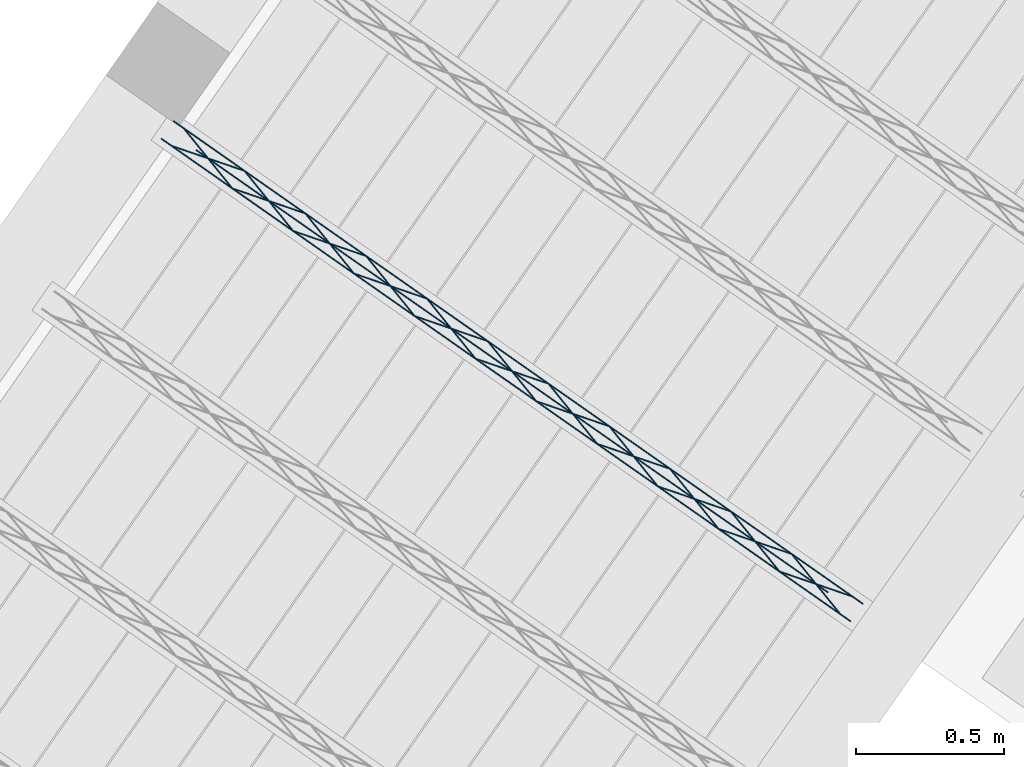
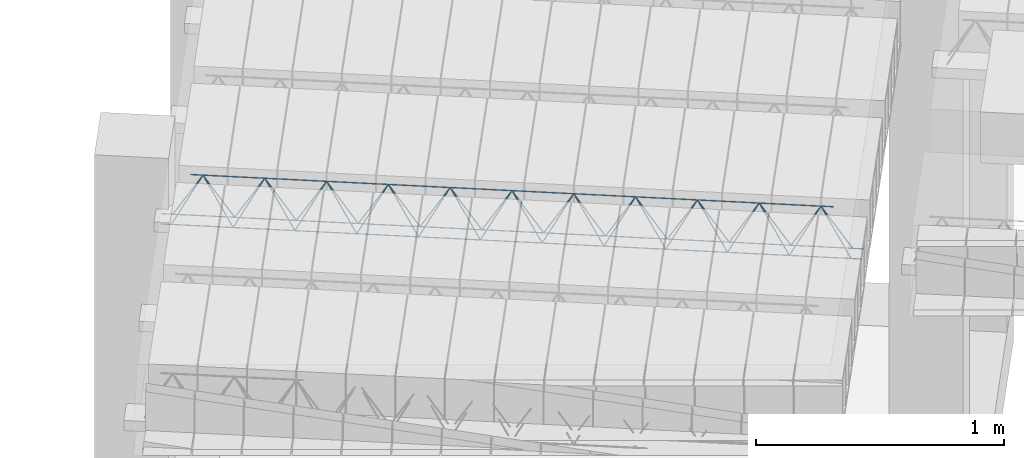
# One storey, part 32 of 80: 1 member.
"""IFC2X3 building model written with IfcOpenShell, lengths in metres."""

from ifc_helpers import new_model, entity, si_unit, converted_unit, derived_unit, direction, frame, origin, origin_2d_with_axis, place, context, subcontext, project, spatial, circle, extrude, type_object, element, save


model = new_model("IFC2X3")

# Units and contexts
model_context = context("Model", 3, precision=1e-05, world=origin(), true_north=direction((6.123031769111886e-17, 1.0)))
body_context = subcontext(model_context, "Body", "Model", "MODEL_VIEW")
ifc_project = project(units=[si_unit("LENGTHUNIT", "METRE"), si_unit("AREAUNIT", "SQUARE_METRE"), si_unit("VOLUMEUNIT", "CUBIC_METRE"), converted_unit("PLANEANGLEUNIT", "DEGREE", entity("IfcPlaneAngleMeasure", 0.017453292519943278), si_unit("PLANEANGLEUNIT", "RADIAN"), dimensions=[0, 0, 0, 0, 0, 0, 0]), si_unit("MASSUNIT", "GRAM", prefix="KILO"), derived_unit("MASSDENSITYUNIT", [(si_unit("MASSUNIT", "GRAM", prefix="KILO"), 1), (si_unit("LENGTHUNIT", "METRE"), -3)]), derived_unit("IONCONCENTRATIONUNIT", [(si_unit("MASSUNIT", "GRAM", prefix="KILO"), 1), (si_unit("LENGTHUNIT", "METRE"), -3)]), derived_unit("MOMENTOFINERTIAUNIT", [(si_unit("LENGTHUNIT", "METRE"), 4)]), si_unit("TIMEUNIT", "SECOND"), si_unit("FREQUENCYUNIT", "HERTZ"), si_unit("THERMODYNAMICTEMPERATUREUNIT", "DEGREE_CELSIUS"), derived_unit("THERMALTRANSMITTANCEUNIT", [(si_unit("MASSUNIT", "GRAM", prefix="KILO"), 1), (si_unit("THERMODYNAMICTEMPERATUREUNIT", "KELVIN"), -1), (si_unit("TIMEUNIT", "SECOND"), -3)]), derived_unit("THERMALCONDUCTANCEUNIT", [(si_unit("MASSUNIT", "GRAM", prefix="KILO"), 1), (si_unit("THERMODYNAMICTEMPERATUREUNIT", "KELVIN"), -1), (si_unit("TIMEUNIT", "SECOND"), -3), (si_unit("LENGTHUNIT", "METRE"), 1)]), derived_unit("VOLUMETRICFLOWRATEUNIT", [(si_unit("LENGTHUNIT", "METRE", prefix="DECI"), 3), (si_unit("TIMEUNIT", "SECOND"), -1)]), derived_unit("MASSFLOWRATEUNIT", [(si_unit("MASSUNIT", "GRAM", prefix="KILO"), 1), (si_unit("TIMEUNIT", "SECOND"), -1)]), derived_unit("ROTATIONALFREQUENCYUNIT", [(si_unit("TIMEUNIT", "SECOND"), -1)]), si_unit("ELECTRICCURRENTUNIT", "AMPERE"), si_unit("ELECTRICVOLTAGEUNIT", "VOLT"), si_unit("POWERUNIT", "WATT"), si_unit("FORCEUNIT", "NEWTON", prefix="KILO"), si_unit("ILLUMINANCEUNIT", "LUX"), si_unit("LUMINOUSFLUXUNIT", "LUMEN"), si_unit("LUMINOUSINTENSITYUNIT", "CANDELA"), si_unit("ENERGYUNIT", "JOULE"), derived_unit("USERDEFINED", [(si_unit("MASSUNIT", "GRAM", prefix="KILO"), -1), (si_unit("LENGTHUNIT", "METRE"), -2), (si_unit("TIMEUNIT", "SECOND"), 3), (si_unit("LUMINOUSFLUXUNIT", "LUMEN"), 1)]), derived_unit("USERDEFINED", [(si_unit("MASSUNIT", "GRAM", prefix="KILO"), 1), (si_unit("TIMEUNIT", "SECOND"), -3), (si_unit("LENGTHUNIT", "METRE"), 3), (si_unit("ELECTRICCURRENTUNIT", "AMPERE"), -2)]), derived_unit("SOUNDPOWERUNIT", [(si_unit("MASSUNIT", "GRAM", prefix="KILO"), 1), (si_unit("TIMEUNIT", "SECOND"), -3), (si_unit("LENGTHUNIT", "METRE"), 2)]), derived_unit("SOUNDPRESSUREUNIT", [(si_unit("MASSUNIT", "GRAM", prefix="KILO"), 1), (si_unit("LENGTHUNIT", "METRE"), -1), (si_unit("TIMEUNIT", "SECOND"), -2)]), derived_unit("LINEARVELOCITYUNIT", [(si_unit("LENGTHUNIT", "METRE"), 1), (si_unit("TIMEUNIT", "SECOND"), -1)]), si_unit("PRESSUREUNIT", "PASCAL"), derived_unit("USERDEFINED", [(si_unit("MASSUNIT", "GRAM", prefix="KILO"), 1), (si_unit("LENGTHUNIT", "METRE"), -2), (si_unit("TIMEUNIT", "SECOND"), -2)]), derived_unit("LINEARFORCEUNIT", [(si_unit("MASSUNIT", "GRAM", prefix="KILO"), 1), (si_unit("TIMEUNIT", "SECOND"), -2)]), derived_unit("PLANARFORCEUNIT", [(si_unit("MASSUNIT", "GRAM", prefix="KILO"), 1), (si_unit("LENGTHUNIT", "METRE"), -1), (si_unit("TIMEUNIT", "SECOND"), -2)]), derived_unit("SPECIFICHEATCAPACITYUNIT", [(si_unit("THERMODYNAMICTEMPERATUREUNIT", "KELVIN"), -1), (si_unit("LENGTHUNIT", "METRE"), 2), (si_unit("TIMEUNIT", "SECOND"), -2)]), derived_unit("HEATFLUXDENSITYUNIT", [(si_unit("MASSUNIT", "GRAM", prefix="KILO"), 1), (si_unit("TIMEUNIT", "SECOND"), -3)]), derived_unit("HEATINGVALUEUNIT", [(si_unit("LENGTHUNIT", "METRE"), 2), (si_unit("TIMEUNIT", "SECOND"), -2)]), derived_unit("VAPORPERMEABILITYUNIT", [(si_unit("LENGTHUNIT", "METRE"), -1), (si_unit("TIMEUNIT", "SECOND"), 1)]), derived_unit("DYNAMICVISCOSITYUNIT", [(si_unit("MASSUNIT", "GRAM", prefix="KILO"), 1), (si_unit("TIMEUNIT", "SECOND"), -1), (si_unit("LENGTHUNIT", "METRE"), -1)]), derived_unit("THERMALEXPANSIONCOEFFICIENTUNIT", [(si_unit("THERMODYNAMICTEMPERATUREUNIT", "KELVIN"), -1)]), derived_unit("MODULUSOFELASTICITYUNIT", [(si_unit("MASSUNIT", "GRAM", prefix="KILO"), 1), (si_unit("LENGTHUNIT", "METRE"), -1), (si_unit("TIMEUNIT", "SECOND"), -2)]), derived_unit("ISOTHERMALMOISTURECAPACITYUNIT", [(si_unit("MASSUNIT", "GRAM", prefix="KILO"), -1), (si_unit("LENGTHUNIT", "METRE"), 3)]), derived_unit("MOISTUREDIFFUSIVITYUNIT", [(si_unit("TIMEUNIT", "SECOND"), -1), (si_unit("LENGTHUNIT", "METRE"), 2)]), derived_unit("MASSPERLENGTHUNIT", [(si_unit("MASSUNIT", "GRAM", prefix="KILO"), 1), (si_unit("LENGTHUNIT", "METRE"), -1)]), derived_unit("THERMALRESISTANCEUNIT", [(si_unit("MASSUNIT", "GRAM", prefix="KILO"), -1), (si_unit("TIMEUNIT", "SECOND"), 3), (si_unit("THERMODYNAMICTEMPERATUREUNIT", "KELVIN"), 1)]), derived_unit("ACCELERATIONUNIT", [(si_unit("LENGTHUNIT", "METRE"), 1), (si_unit("TIMEUNIT", "SECOND"), -2)]), derived_unit("ANGULARVELOCITYUNIT", [(si_unit("TIMEUNIT", "SECOND"), -1), (si_unit("PLANEANGLEUNIT", "RADIAN"), 1)]), derived_unit("LINEARSTIFFNESSUNIT", [(si_unit("MASSUNIT", "GRAM", prefix="KILO"), 1), (si_unit("TIMEUNIT", "SECOND"), -2)]), derived_unit("WARPINGCONSTANTUNIT", [(si_unit("LENGTHUNIT", "METRE"), 6)]), derived_unit("LINEARMOMENTUNIT", [(si_unit("MASSUNIT", "GRAM", prefix="KILO"), 1), (si_unit("LENGTHUNIT", "METRE"), 1), (si_unit("TIMEUNIT", "SECOND"), -2)]), derived_unit("TORQUEUNIT", [(si_unit("MASSUNIT", "GRAM", prefix="KILO"), 1), (si_unit("LENGTHUNIT", "METRE"), 2), (si_unit("TIMEUNIT", "SECOND"), -2)])], contexts=[model_context])

# Site, building, storey
site_placement = place(None, origin())
site = spatial("IfcSite", under=ifc_project, at=site_placement, Name="Default", CompositionType="ELEMENT")
building_placement = place(site_placement, origin())
building = spatial("IfcBuilding", under=site, at=building_placement, CompositionType="ELEMENT")
storey_placement = place(building_placement, frame((0.0, 0.0, 95.94)))
storey = spatial("IfcBuildingStorey", under=building, at=storey_placement, Name="PB", CompositionType="ELEMENT", Elevation=95.94)

# Member
member_type = type_object("IfcMemberType", Name="Celosía (Vigueta 10 - Paño 2)", PredefinedType="NOTDEFINED")
member_placement = place(storey_placement, origin())
element("IfcMember", 1, at=member_placement, inside=storey, type_object=member_type, Name="Celosía (Vigueta 10 - Paño 2)", context=body_context, shape_type="SweptSolid", body=[
    extrude(circle(Radius=0.0025, at=origin_2d_with_axis()), frame((2.4325394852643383, 7.836194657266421, 2.8449999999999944), z_axis=(0.8191520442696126, -0.5735764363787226, 0.0), x_axis=(-0.5735764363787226, -0.8191520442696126, 0.0)), (0.0, 0.0, 1.0), 2.836461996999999),
    extrude(circle(Radius=0.0025, at=origin_2d_with_axis()), frame((2.5500374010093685, 7.797869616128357, 3.069999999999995), z_axis=(0.8191520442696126, -0.5735764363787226, 0.0), x_axis=(-0.5735764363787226, -0.8191520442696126, 0.0)), (0.0, 0.0, 1.0), 2.6),
    extrude(circle(Radius=0.0025, at=origin_2d_with_axis()), frame((4.720620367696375, 6.2340631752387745, 2.8449999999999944), z_axis=(-0.3145304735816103, 0.389334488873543, 0.8657304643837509), x_axis=(-0.7778747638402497, -0.6284193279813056, 0.0)), (0.0, 0.0, 1.0), 0.2598961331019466),
    extrude(circle(Radius=0.0025, at=origin_2d_with_axis()), frame((4.515832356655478, 6.377457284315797, 2.8449999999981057), z_axis=(0.47343050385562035, -0.1624017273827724, 0.8657304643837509), x_axis=(-0.3244721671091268, -0.9458952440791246, 0.0)), (0.0, 0.0, 1.0), 0.25989613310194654),
    extrude(circle(Radius=0.0025, at=origin_2d_with_axis()), frame((4.515832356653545, 6.3774572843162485, 2.8449999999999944), z_axis=(-0.3145304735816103, 0.389334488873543, 0.8657304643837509), x_axis=(-0.7778747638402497, -0.6284193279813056, 0.0)), (0.0, 0.0, 1.0), 0.2598961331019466),
    extrude(circle(Radius=0.0025, at=origin_2d_with_axis()), frame((4.311044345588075, 6.520851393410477, 2.8449999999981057), z_axis=(0.47343050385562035, -0.1624017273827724, 0.8657304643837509), x_axis=(-0.3244721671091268, -0.9458952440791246, 0.0)), (0.0, 0.0, 1.0), 0.25989613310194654),
    extrude(circle(Radius=0.0025, at=origin_2d_with_axis()), frame((4.311044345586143, 6.520851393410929, 2.8449999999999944), z_axis=(-0.3145304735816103, 0.389334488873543, 0.8657304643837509), x_axis=(-0.7778747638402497, -0.6284193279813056, 0.0)), (0.0, 0.0, 1.0), 0.2598961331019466),
    extrude(circle(Radius=0.0025, at=origin_2d_with_axis()), frame((4.106256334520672, 6.664245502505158, 2.8449999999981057), z_axis=(0.47343050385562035, -0.1624017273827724, 0.8657304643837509), x_axis=(-0.3244721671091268, -0.9458952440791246, 0.0)), (0.0, 0.0, 1.0), 0.25989613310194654),
    extrude(circle(Radius=0.0025, at=origin_2d_with_axis()), frame((4.106256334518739, 6.664245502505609, 2.8449999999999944), z_axis=(-0.3145304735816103, 0.389334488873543, 0.8657304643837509), x_axis=(-0.7778747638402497, -0.6284193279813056, 0.0)), (0.0, 0.0, 1.0), 0.2598961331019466),
    extrude(circle(Radius=0.0025, at=origin_2d_with_axis()), frame((3.901468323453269, 6.807639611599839, 2.8449999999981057), z_axis=(0.47343050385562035, -0.1624017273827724, 0.8657304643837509), x_axis=(-0.3244721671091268, -0.9458952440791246, 0.0)), (0.0, 0.0, 1.0), 0.25989613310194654),
    extrude(circle(Radius=0.0025, at=origin_2d_with_axis()), frame((3.9014683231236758, 6.807639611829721, 2.8449999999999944), z_axis=(-0.3145304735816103, 0.389334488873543, 0.8657304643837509), x_axis=(-0.7778747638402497, -0.6284193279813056, 0.0)), (0.0, 0.0, 1.0), 0.2598961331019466),
    extrude(circle(Radius=0.0025, at=origin_2d_with_axis()), frame((3.6966803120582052, 6.95103372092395, 2.8449999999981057), z_axis=(0.47343050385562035, -0.1624017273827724, 0.8657304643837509), x_axis=(-0.3244721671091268, -0.9458952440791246, 0.0)), (0.0, 0.0, 1.0), 0.25989613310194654),
    extrude(circle(Radius=0.0025, at=origin_2d_with_axis()), frame((3.696680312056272, 6.951033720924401, 2.8449999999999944), z_axis=(-0.3145304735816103, 0.389334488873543, 0.8657304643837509), x_axis=(-0.7778747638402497, -0.6284193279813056, 0.0)), (0.0, 0.0, 1.0), 0.2598961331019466),
    extrude(circle(Radius=0.0025, at=origin_2d_with_axis()), frame((3.4918923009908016, 7.094427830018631, 2.8449999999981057), z_axis=(0.47343050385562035, -0.1624017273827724, 0.8657304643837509), x_axis=(-0.3244721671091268, -0.9458952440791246, 0.0)), (0.0, 0.0, 1.0), 0.25989613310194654),
    extrude(circle(Radius=0.0025, at=origin_2d_with_axis()), frame((3.4918923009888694, 7.0944278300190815, 2.8449999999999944), z_axis=(-0.3145304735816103, 0.389334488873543, 0.8657304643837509), x_axis=(-0.7778747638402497, -0.6284193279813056, 0.0)), (0.0, 0.0, 1.0), 0.2598961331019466),
    extrude(circle(Radius=0.0025, at=origin_2d_with_axis()), frame((3.287104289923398, 7.237821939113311, 2.8449999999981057), z_axis=(0.47343050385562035, -0.1624017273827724, 0.8657304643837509), x_axis=(-0.3244721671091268, -0.9458952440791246, 0.0)), (0.0, 0.0, 1.0), 0.25989613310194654),
    extrude(circle(Radius=0.0025, at=origin_2d_with_axis()), frame((3.287104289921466, 7.237821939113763, 2.8449999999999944), z_axis=(-0.3145304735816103, 0.389334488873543, 0.8657304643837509), x_axis=(-0.7778747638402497, -0.6284193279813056, 0.0)), (0.0, 0.0, 1.0), 0.2598961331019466),
    extrude(circle(Radius=0.0025, at=origin_2d_with_axis()), frame((3.0823162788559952, 7.381216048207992, 2.8449999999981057), z_axis=(0.47343050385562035, -0.1624017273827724, 0.8657304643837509), x_axis=(-0.3244721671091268, -0.9458952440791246, 0.0)), (0.0, 0.0, 1.0), 0.25989613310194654),
    extrude(circle(Radius=0.0025, at=origin_2d_with_axis()), frame((3.082316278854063, 7.381216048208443, 2.8449999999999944), z_axis=(-0.3145304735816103, 0.389334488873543, 0.8657304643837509), x_axis=(-0.7778747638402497, -0.6284193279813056, 0.0)), (0.0, 0.0, 1.0), 0.2598961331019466),
    extrude(circle(Radius=0.0025, at=origin_2d_with_axis()), frame((2.8775282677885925, 7.524610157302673, 2.8449999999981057), z_axis=(0.47343050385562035, -0.1624017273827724, 0.8657304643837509), x_axis=(-0.3244721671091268, -0.9458952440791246, 0.0)), (0.0, 0.0, 1.0), 0.25989613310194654),
    extrude(circle(Radius=0.0025, at=origin_2d_with_axis()), frame((2.8775282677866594, 7.524610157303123, 2.8449999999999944), z_axis=(-0.3145304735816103, 0.389334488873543, 0.8657304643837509), x_axis=(-0.7778747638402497, -0.6284193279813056, 0.0)), (0.0, 0.0, 1.0), 0.2598961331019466),
    extrude(circle(Radius=0.0025, at=origin_2d_with_axis()), frame((2.6727402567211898, 7.668004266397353, 2.8449999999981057), z_axis=(0.47343050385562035, -0.1624017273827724, 0.8657304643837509), x_axis=(-0.3244721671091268, -0.9458952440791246, 0.0)), (0.0, 0.0, 1.0), 0.25989613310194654),
    extrude(circle(Radius=0.0025, at=origin_2d_with_axis()), frame((2.6727402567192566, 7.668004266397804, 2.8449999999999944), z_axis=(-0.3145304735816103, 0.389334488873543, 0.8657304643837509), x_axis=(-0.7778747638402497, -0.6284193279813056, 0.0)), (0.0, 0.0, 1.0), 0.2598961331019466),
    extrude(circle(Radius=0.0025, at=origin_2d_with_axis()), frame((2.4679522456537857, 7.8113983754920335, 2.8449999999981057), z_axis=(0.47343050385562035, -0.1624017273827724, 0.8657304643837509), x_axis=(-0.3244721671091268, -0.9458952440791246, 0.0)), (0.0, 0.0, 1.0), 0.25989613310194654),
    extrude(circle(Radius=0.0025, at=origin_2d_with_axis()), frame((4.797330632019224, 6.268245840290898, 2.8449999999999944), z_axis=(-0.8191520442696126, 0.5735764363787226, 0.0), x_axis=(-0.5735764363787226, -0.8191520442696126, 0.0)), (0.0, 0.0, 1.0), 2.836461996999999),
    extrude(circle(Radius=0.0025, at=origin_2d_with_axis()), frame((4.761917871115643, 6.293042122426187, 2.8449999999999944), z_axis=(-0.47343050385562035, 0.1624017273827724, 0.8657304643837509), x_axis=(-0.3244721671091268, -0.9458952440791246, 0.0)), (0.0, 0.0, 1.0), 0.25989613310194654),
    extrude(circle(Radius=0.0025, at=origin_2d_with_axis()), frame((4.557129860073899, 6.436436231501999, 2.8449999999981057), z_axis=(0.3145304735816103, -0.389334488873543, 0.8657304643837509), x_axis=(-0.7778747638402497, -0.6284193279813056, 0.0)), (0.0, 0.0, 1.0), 0.2598961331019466),
    extrude(circle(Radius=0.0025, at=origin_2d_with_axis()), frame((4.557129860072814, 6.43643623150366, 2.8449999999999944), z_axis=(-0.47343050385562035, 0.1624017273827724, 0.8657304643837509), x_axis=(-0.3244721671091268, -0.9458952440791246, 0.0)), (0.0, 0.0, 1.0), 0.25989613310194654),
    extrude(circle(Radius=0.0025, at=origin_2d_with_axis()), frame((4.352341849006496, 6.579830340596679, 2.8449999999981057), z_axis=(0.3145304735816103, -0.389334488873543, 0.8657304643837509), x_axis=(-0.7778747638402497, -0.6284193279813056, 0.0)), (0.0, 0.0, 1.0), 0.2598961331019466),
    extrude(circle(Radius=0.0025, at=origin_2d_with_axis()), frame((4.352341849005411, 6.579830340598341, 2.8449999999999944), z_axis=(-0.47343050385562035, 0.1624017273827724, 0.8657304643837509), x_axis=(-0.3244721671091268, -0.9458952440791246, 0.0)), (0.0, 0.0, 1.0), 0.25989613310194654),
    extrude(circle(Radius=0.0025, at=origin_2d_with_axis()), frame((4.147553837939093, 6.72322444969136, 2.8449999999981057), z_axis=(0.3145304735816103, -0.389334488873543, 0.8657304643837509), x_axis=(-0.7778747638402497, -0.6284193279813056, 0.0)), (0.0, 0.0, 1.0), 0.2598961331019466),
    extrude(circle(Radius=0.0025, at=origin_2d_with_axis()), frame((4.147553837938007, 6.723224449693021, 2.8449999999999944), z_axis=(-0.47343050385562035, 0.1624017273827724, 0.8657304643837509), x_axis=(-0.3244721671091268, -0.9458952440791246, 0.0)), (0.0, 0.0, 1.0), 0.25989613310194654),
    extrude(circle(Radius=0.0025, at=origin_2d_with_axis()), frame((3.94276582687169, 6.866618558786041, 2.8449999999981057), z_axis=(0.3145304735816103, -0.389334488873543, 0.8657304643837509), x_axis=(-0.7778747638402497, -0.6284193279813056, 0.0)), (0.0, 0.0, 1.0), 0.2598961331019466),
    extrude(circle(Radius=0.0025, at=origin_2d_with_axis()), frame((3.942765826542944, 6.866618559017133, 2.8449999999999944), z_axis=(-0.47343050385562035, 0.1624017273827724, 0.8657304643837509), x_axis=(-0.3244721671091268, -0.9458952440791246, 0.0)), (0.0, 0.0, 1.0), 0.25989613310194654),
    extrude(circle(Radius=0.0025, at=origin_2d_with_axis()), frame((3.737977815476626, 7.010012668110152, 2.8449999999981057), z_axis=(0.3145304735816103, -0.389334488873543, 0.8657304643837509), x_axis=(-0.7778747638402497, -0.6284193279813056, 0.0)), (0.0, 0.0, 1.0), 0.2598961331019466),
    extrude(circle(Radius=0.0025, at=origin_2d_with_axis()), frame((3.7379778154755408, 7.010012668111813, 2.8449999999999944), z_axis=(-0.47343050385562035, 0.1624017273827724, 0.8657304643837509), x_axis=(-0.3244721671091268, -0.9458952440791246, 0.0)), (0.0, 0.0, 1.0), 0.25989613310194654),
    extrude(circle(Radius=0.0025, at=origin_2d_with_axis()), frame((3.5331898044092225, 7.153406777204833, 2.8449999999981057), z_axis=(0.3145304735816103, -0.389334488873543, 0.8657304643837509), x_axis=(-0.7778747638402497, -0.6284193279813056, 0.0)), (0.0, 0.0, 1.0), 0.2598961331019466),
    extrude(circle(Radius=0.0025, at=origin_2d_with_axis()), frame((3.5331898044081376, 7.153406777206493, 2.8449999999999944), z_axis=(-0.47343050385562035, 0.1624017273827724, 0.8657304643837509), x_axis=(-0.3244721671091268, -0.9458952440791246, 0.0)), (0.0, 0.0, 1.0), 0.25989613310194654),
    extrude(circle(Radius=0.0025, at=origin_2d_with_axis()), frame((3.328401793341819, 7.296800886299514, 2.8449999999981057), z_axis=(0.3145304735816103, -0.389334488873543, 0.8657304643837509), x_axis=(-0.7778747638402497, -0.6284193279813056, 0.0)), (0.0, 0.0, 1.0), 0.2598961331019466),
    extrude(circle(Radius=0.0025, at=origin_2d_with_axis()), frame((3.328401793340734, 7.296800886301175, 2.8449999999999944), z_axis=(-0.47343050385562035, 0.1624017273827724, 0.8657304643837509), x_axis=(-0.3244721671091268, -0.9458952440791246, 0.0)), (0.0, 0.0, 1.0), 0.25989613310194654),
    extrude(circle(Radius=0.0025, at=origin_2d_with_axis()), frame((3.123613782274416, 7.440194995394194, 2.8449999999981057), z_axis=(0.3145304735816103, -0.389334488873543, 0.8657304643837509), x_axis=(-0.7778747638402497, -0.6284193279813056, 0.0)), (0.0, 0.0, 1.0), 0.2598961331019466),
    extrude(circle(Radius=0.0025, at=origin_2d_with_axis()), frame((3.123613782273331, 7.440194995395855, 2.8449999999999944), z_axis=(-0.47343050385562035, 0.1624017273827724, 0.8657304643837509), x_axis=(-0.3244721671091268, -0.9458952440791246, 0.0)), (0.0, 0.0, 1.0), 0.25989613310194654),
    extrude(circle(Radius=0.0025, at=origin_2d_with_axis()), frame((2.9188257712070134, 7.583589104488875, 2.8449999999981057), z_axis=(0.3145304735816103, -0.389334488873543, 0.8657304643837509), x_axis=(-0.7778747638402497, -0.6284193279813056, 0.0)), (0.0, 0.0, 1.0), 0.2598961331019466),
    extrude(circle(Radius=0.0025, at=origin_2d_with_axis()), frame((2.9188257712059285, 7.583589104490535, 2.8449999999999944), z_axis=(-0.47343050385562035, 0.1624017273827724, 0.8657304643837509), x_axis=(-0.3244721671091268, -0.9458952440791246, 0.0)), (0.0, 0.0, 1.0), 0.25989613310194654),
    extrude(circle(Radius=0.0025, at=origin_2d_with_axis()), frame((2.7140377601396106, 7.726983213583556, 2.8449999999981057), z_axis=(0.3145304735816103, -0.389334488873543, 0.8657304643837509), x_axis=(-0.7778747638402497, -0.6284193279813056, 0.0)), (0.0, 0.0, 1.0), 0.2598961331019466),
    extrude(circle(Radius=0.0025, at=origin_2d_with_axis()), frame((2.714037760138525, 7.726983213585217, 2.8449999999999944), z_axis=(-0.47343050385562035, 0.1624017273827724, 0.8657304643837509), x_axis=(-0.3244721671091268, -0.9458952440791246, 0.0)), (0.0, 0.0, 1.0), 0.25989613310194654),
    extrude(circle(Radius=0.0025, at=origin_2d_with_axis()), frame((2.5092497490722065, 7.870377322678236, 2.8449999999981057), z_axis=(0.3145304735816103, -0.389334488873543, 0.8657304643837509), x_axis=(-0.7778747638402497, -0.6284193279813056, 0.0)), (0.0, 0.0, 1.0), 0.2598961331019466),
])

save(model, "model.ifc")
